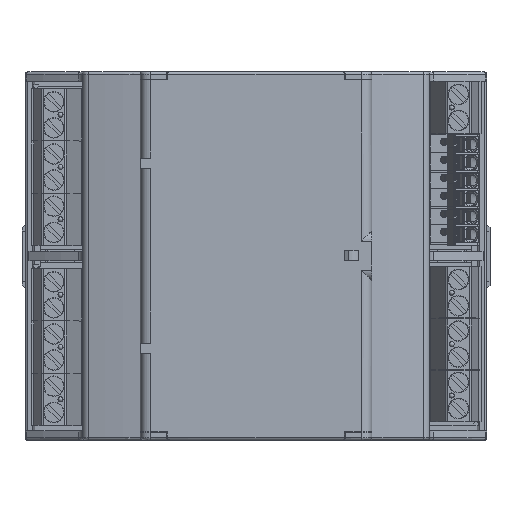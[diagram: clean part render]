
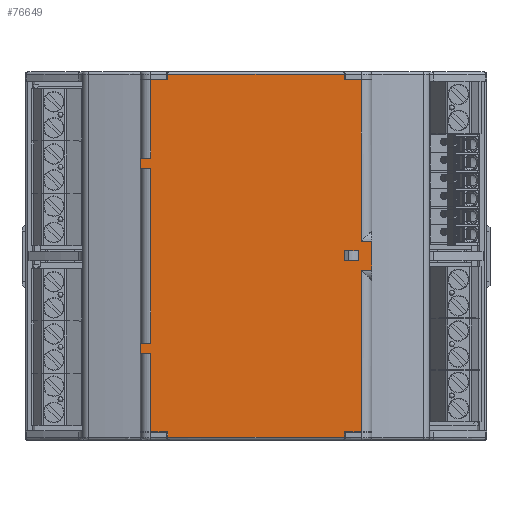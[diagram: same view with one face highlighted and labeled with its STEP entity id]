
A CAD part, top view. The second image highlights one B-rep face of the part: STEP entity #76649.
In plain terms, the highlighted planar face has unit normal (0, 0, 1) as drawn and (0, 1, 0) by its records, which use the part's own axes.
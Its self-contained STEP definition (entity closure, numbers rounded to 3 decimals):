
#946=FACE_BOUND('',#9491,.T.);
#5254=FACE_OUTER_BOUND('',#9490,.T.);
#9490=EDGE_LOOP('',(#59589,#59590,#59591,#59592,#59593,#59594,#59595,#59596,
#59597,#59598,#59599,#59600,#59601,#59602,#59603,#59604,#59605,#59606,#59607,
#59608,#59609,#59610,#59611,#59612));
#9491=EDGE_LOOP('',(#59613,#59614,#59615,#59616));
#16623=LINE('',#115399,#26010);
#16625=LINE('',#115409,#26012);
#16626=LINE('',#115413,#26013);
#16644=LINE('',#115458,#26031);
#16657=LINE('',#115491,#26044);
#16663=LINE('',#115507,#26050);
#16669=LINE('',#115520,#26056);
#16682=LINE('',#115551,#26069);
#16683=LINE('',#115555,#26070);
#16697=LINE('',#115594,#26084);
#16718=LINE('',#115639,#26105);
#16743=LINE('',#115695,#26130);
#16744=LINE('',#115697,#26131);
#16745=LINE('',#115698,#26132);
#16746=LINE('',#115700,#26133);
#16747=LINE('',#115701,#26134);
#16748=LINE('',#115703,#26135);
#16749=LINE('',#115704,#26136);
#16750=LINE('',#115705,#26137);
#16751=LINE('',#115707,#26138);
#16752=LINE('',#115708,#26139);
#16753=LINE('',#115710,#26140);
#16754=LINE('',#115712,#26141);
#16755=LINE('',#115714,#26142);
#16756=LINE('',#115715,#26143);
#16757=LINE('',#115716,#26144);
#16758=LINE('',#115717,#26145);
#16759=LINE('',#115718,#26146);
#26010=VECTOR('',#93205,1.);
#26012=VECTOR('',#93215,1.);
#26013=VECTOR('',#93218,1.);
#26031=VECTOR('',#93254,1.);
#26044=VECTOR('',#93279,1.);
#26050=VECTOR('',#93293,1.);
#26056=VECTOR('',#93303,1.);
#26069=VECTOR('',#93328,1.);
#26070=VECTOR('',#93331,1.);
#26084=VECTOR('',#93363,1.);
#26105=VECTOR('',#93402,1.);
#26130=VECTOR('',#93453,1.);
#26131=VECTOR('',#93454,1.);
#26132=VECTOR('',#93455,1.);
#26133=VECTOR('',#93456,1.);
#26134=VECTOR('',#93457,1.);
#26135=VECTOR('',#93458,1.);
#26136=VECTOR('',#93459,1.);
#26137=VECTOR('',#93460,1.);
#26138=VECTOR('',#93461,1.);
#26139=VECTOR('',#93462,1.);
#26140=VECTOR('',#93463,1.);
#26141=VECTOR('',#93464,1.);
#26142=VECTOR('',#93465,1.);
#26143=VECTOR('',#93466,1.);
#26144=VECTOR('',#93467,1.);
#26145=VECTOR('',#93468,1.);
#26146=VECTOR('',#93469,1.);
#34095=VERTEX_POINT('',#115396);
#34096=VERTEX_POINT('',#115398);
#34097=VERTEX_POINT('',#115402);
#34100=VERTEX_POINT('',#115407);
#34101=VERTEX_POINT('',#115411);
#34102=VERTEX_POINT('',#115412);
#34119=VERTEX_POINT('',#115455);
#34120=VERTEX_POINT('',#115457);
#34133=VERTEX_POINT('',#115489);
#34134=VERTEX_POINT('',#115490);
#34140=VERTEX_POINT('',#115505);
#34144=VERTEX_POINT('',#115517);
#34145=VERTEX_POINT('',#115519);
#34157=VERTEX_POINT('',#115549);
#34158=VERTEX_POINT('',#115553);
#34159=VERTEX_POINT('',#115554);
#34174=VERTEX_POINT('',#115592);
#34175=VERTEX_POINT('',#115593);
#34190=VERTEX_POINT('',#115637);
#34207=VERTEX_POINT('',#115693);
#34208=VERTEX_POINT('',#115694);
#34209=VERTEX_POINT('',#115696);
#34210=VERTEX_POINT('',#115699);
#34211=VERTEX_POINT('',#115702);
#34212=VERTEX_POINT('',#115706);
#34213=VERTEX_POINT('',#115709);
#34214=VERTEX_POINT('',#115711);
#34215=VERTEX_POINT('',#115713);
#43196=EDGE_CURVE('',#34095,#34096,#16623,.T.);
#43201=EDGE_CURVE('',#34100,#34097,#16625,.T.);
#43202=EDGE_CURVE('',#34101,#34102,#16626,.T.);
#43223=EDGE_CURVE('',#34119,#34120,#16644,.T.);
#43238=EDGE_CURVE('',#34133,#34134,#16657,.T.);
#43246=EDGE_CURVE('',#34140,#34119,#16663,.T.);
#43252=EDGE_CURVE('',#34144,#34145,#16669,.T.);
#43268=EDGE_CURVE('',#34157,#34095,#16682,.T.);
#43269=EDGE_CURVE('',#34158,#34159,#16683,.T.);
#43287=EDGE_CURVE('',#34174,#34175,#16697,.T.);
#43311=EDGE_CURVE('',#34190,#34140,#16718,.T.);
#43339=EDGE_CURVE('',#34207,#34208,#16743,.T.);
#43340=EDGE_CURVE('',#34209,#34207,#16744,.T.);
#43341=EDGE_CURVE('',#34209,#34174,#16745,.T.);
#43342=EDGE_CURVE('',#34175,#34210,#16746,.T.);
#43343=EDGE_CURVE('',#34210,#34097,#16747,.T.);
#43344=EDGE_CURVE('',#34100,#34211,#16748,.T.);
#43345=EDGE_CURVE('',#34211,#34096,#16749,.T.);
#43346=EDGE_CURVE('',#34133,#34157,#16750,.T.);
#43347=EDGE_CURVE('',#34134,#34212,#16751,.T.);
#43348=EDGE_CURVE('',#34101,#34212,#16752,.T.);
#43349=EDGE_CURVE('',#34102,#34213,#16753,.T.);
#43350=EDGE_CURVE('',#34213,#34214,#16754,.T.);
#43351=EDGE_CURVE('',#34215,#34214,#16755,.T.);
#43352=EDGE_CURVE('',#34145,#34215,#16756,.T.);
#43353=EDGE_CURVE('',#34158,#34144,#16757,.T.);
#43354=EDGE_CURVE('',#34208,#34159,#16758,.T.);
#43355=EDGE_CURVE('',#34190,#34120,#16759,.T.);
#59589=ORIENTED_EDGE('',*,*,#43339,.F.);
#59590=ORIENTED_EDGE('',*,*,#43340,.F.);
#59591=ORIENTED_EDGE('',*,*,#43341,.T.);
#59592=ORIENTED_EDGE('',*,*,#43287,.T.);
#59593=ORIENTED_EDGE('',*,*,#43342,.T.);
#59594=ORIENTED_EDGE('',*,*,#43343,.T.);
#59595=ORIENTED_EDGE('',*,*,#43201,.F.);
#59596=ORIENTED_EDGE('',*,*,#43344,.T.);
#59597=ORIENTED_EDGE('',*,*,#43345,.T.);
#59598=ORIENTED_EDGE('',*,*,#43196,.F.);
#59599=ORIENTED_EDGE('',*,*,#43268,.F.);
#59600=ORIENTED_EDGE('',*,*,#43346,.F.);
#59601=ORIENTED_EDGE('',*,*,#43238,.T.);
#59602=ORIENTED_EDGE('',*,*,#43347,.T.);
#59603=ORIENTED_EDGE('',*,*,#43348,.F.);
#59604=ORIENTED_EDGE('',*,*,#43202,.T.);
#59605=ORIENTED_EDGE('',*,*,#43349,.T.);
#59606=ORIENTED_EDGE('',*,*,#43350,.T.);
#59607=ORIENTED_EDGE('',*,*,#43351,.F.);
#59608=ORIENTED_EDGE('',*,*,#43352,.F.);
#59609=ORIENTED_EDGE('',*,*,#43252,.F.);
#59610=ORIENTED_EDGE('',*,*,#43353,.F.);
#59611=ORIENTED_EDGE('',*,*,#43269,.T.);
#59612=ORIENTED_EDGE('',*,*,#43354,.F.);
#59613=ORIENTED_EDGE('',*,*,#43223,.F.);
#59614=ORIENTED_EDGE('',*,*,#43246,.F.);
#59615=ORIENTED_EDGE('',*,*,#43311,.F.);
#59616=ORIENTED_EDGE('',*,*,#43355,.T.);
#73337=PLANE('',#81169);
#76649=ADVANCED_FACE('',(#5254,#946),#73337,.T.);
#81169=AXIS2_PLACEMENT_3D('',#115692,#93451,#93452);
#93205=DIRECTION('',(0.,0.,-1.));
#93215=DIRECTION('',(1.,0.,0.));
#93218=DIRECTION('',(0.,0.,1.));
#93254=DIRECTION('',(0.,0.,1.));
#93279=DIRECTION('',(1.,0.,0.));
#93293=DIRECTION('',(-1.,0.,0.));
#93303=DIRECTION('',(-1.,0.,0.));
#93328=DIRECTION('',(1.,0.,0.));
#93331=DIRECTION('',(-1.,0.,0.));
#93363=DIRECTION('',(0.,0.,-1.));
#93402=DIRECTION('',(0.,0.,-1.));
#93451=DIRECTION('center_axis',(0.,1.,0.));
#93452=DIRECTION('ref_axis',(0.,0.,-1.));
#93453=DIRECTION('',(-1.,0.,0.));
#93454=DIRECTION('',(0.,0.,1.));
#93455=DIRECTION('',(-1.,0.,0.));
#93456=DIRECTION('',(-1.,0.,0.));
#93457=DIRECTION('',(0.,0.,-1.));
#93458=DIRECTION('',(0.,0.,1.));
#93459=DIRECTION('',(-1.,0.,0.));
#93460=DIRECTION('',(0.,0.,-1.));
#93461=DIRECTION('',(0.,0.,1.));
#93462=DIRECTION('',(-1.,0.,0.));
#93463=DIRECTION('',(1.,0.,0.));
#93464=DIRECTION('',(0.,0.,-1.));
#93465=DIRECTION('',(-1.,0.,0.));
#93466=DIRECTION('',(0.,0.,1.));
#93467=DIRECTION('',(0.,0.,1.));
#93468=DIRECTION('',(0.,0.,1.));
#93469=DIRECTION('',(-1.,0.,0.));
#115396=CARTESIAN_POINT('',(-20.5,54.7,33.2));
#115398=CARTESIAN_POINT('',(-20.5,54.7,1.8));
#115399=CARTESIAN_POINT('',(-20.5,54.7,0.2));
#115402=CARTESIAN_POINT('',(17.2,54.7,0.7));
#115407=CARTESIAN_POINT('',(-17.2,54.7,0.7));
#115409=CARTESIAN_POINT('',(20.5,54.7,0.7));
#115411=CARTESIAN_POINT('',(-17.2,54.7,70.2));
#115412=CARTESIAN_POINT('',(-17.2,54.7,71.3));
#115413=CARTESIAN_POINT('',(-17.2,54.7,29.186));
#115455=CARTESIAN_POINT('',(-19.9,54.7,35.));
#115457=CARTESIAN_POINT('',(-19.9,54.7,37.));
#115458=CARTESIAN_POINT('',(-19.9,54.7,29.186));
#115489=CARTESIAN_POINT('',(-22.5,54.7,38.8));
#115490=CARTESIAN_POINT('',(-20.5,54.7,38.8));
#115491=CARTESIAN_POINT('',(-5.65,54.7,38.8));
#115505=CARTESIAN_POINT('',(-17.181,54.7,35.));
#115507=CARTESIAN_POINT('',(-1.588,54.7,35.));
#115517=CARTESIAN_POINT('',(22.5,54.7,55.));
#115519=CARTESIAN_POINT('',(20.5,54.7,55.));
#115520=CARTESIAN_POINT('',(-1.588,54.7,55.));
#115549=CARTESIAN_POINT('',(-22.5,54.7,33.2));
#115551=CARTESIAN_POINT('',(-5.65,54.7,33.2));
#115553=CARTESIAN_POINT('',(22.5,54.7,53.));
#115554=CARTESIAN_POINT('',(20.5,54.7,53.));
#115555=CARTESIAN_POINT('',(-1.588,54.7,53.));
#115592=CARTESIAN_POINT('',(20.5,54.7,17.));
#115593=CARTESIAN_POINT('',(20.5,54.7,1.8));
#115594=CARTESIAN_POINT('',(20.5,54.7,19.725));
#115637=CARTESIAN_POINT('',(-17.181,54.7,37.));
#115639=CARTESIAN_POINT('',(-17.181,54.7,29.186));
#115692=CARTESIAN_POINT('Origin',(20.5,54.7,22.055));
#115693=CARTESIAN_POINT('',(22.5,54.7,19.));
#115694=CARTESIAN_POINT('',(20.5,54.7,19.));
#115695=CARTESIAN_POINT('',(-1.588,54.7,19.));
#115696=CARTESIAN_POINT('',(22.5,54.7,17.));
#115697=CARTESIAN_POINT('',(22.5,54.7,29.186));
#115698=CARTESIAN_POINT('',(-1.588,54.7,17.));
#115699=CARTESIAN_POINT('',(17.2,54.7,1.8));
#115700=CARTESIAN_POINT('',(-1.588,54.7,1.8));
#115701=CARTESIAN_POINT('',(17.2,54.7,29.186));
#115702=CARTESIAN_POINT('',(-17.2,54.7,1.8));
#115703=CARTESIAN_POINT('',(-17.2,54.7,29.186));
#115704=CARTESIAN_POINT('',(-1.588,54.7,1.8));
#115705=CARTESIAN_POINT('',(-22.5,54.7,29.186));
#115706=CARTESIAN_POINT('',(-20.5,54.7,70.2));
#115707=CARTESIAN_POINT('',(-20.5,54.7,71.8));
#115708=CARTESIAN_POINT('',(-1.588,54.7,70.2));
#115709=CARTESIAN_POINT('',(17.2,54.7,71.3));
#115710=CARTESIAN_POINT('',(20.5,54.7,71.3));
#115711=CARTESIAN_POINT('',(17.2,54.7,70.2));
#115712=CARTESIAN_POINT('',(17.2,54.7,29.186));
#115713=CARTESIAN_POINT('',(20.5,54.7,70.2));
#115714=CARTESIAN_POINT('',(-1.588,54.7,70.2));
#115715=CARTESIAN_POINT('',(20.5,54.7,52.275));
#115716=CARTESIAN_POINT('',(22.5,54.7,29.186));
#115717=CARTESIAN_POINT('',(20.5,54.7,53.));
#115718=CARTESIAN_POINT('',(-1.588,54.7,37.));
